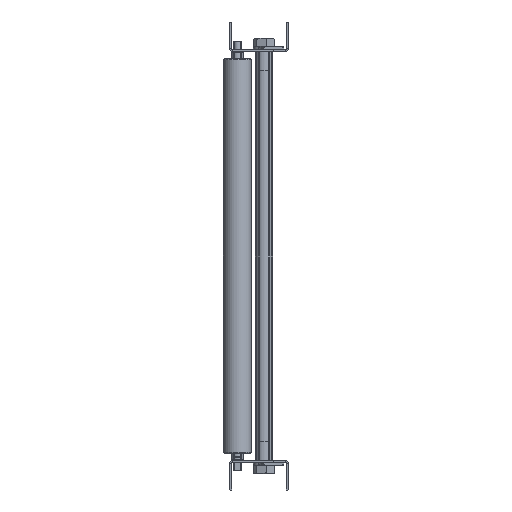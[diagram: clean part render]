
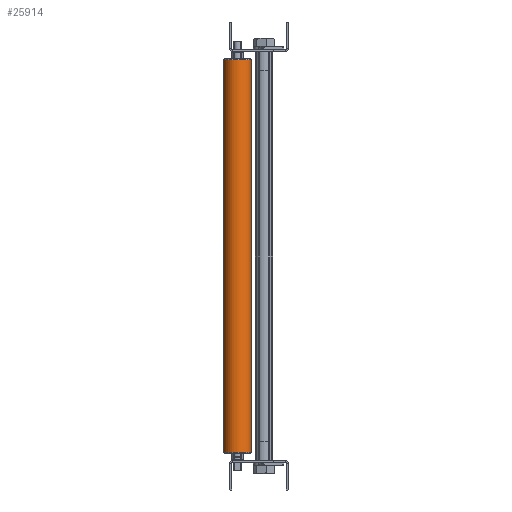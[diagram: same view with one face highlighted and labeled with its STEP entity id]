
A CAD part, left-side view. The second image highlights one B-rep face of the part: STEP entity #25914.
In plain terms, the highlighted cylindrical face has radius 14.3 mm (diameter 28.6 mm), a partial arc.
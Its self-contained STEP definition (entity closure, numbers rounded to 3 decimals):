
#1235 = DIRECTION ( 'NONE',  ( 0.056, 0.998, 0. ) ) ;
#2892 = VERTEX_POINT ( 'NONE', #8479 ) ;
#4130 = AXIS2_PLACEMENT_3D ( 'NONE', #8144, #19751, #16277 ) ;
#4779 = EDGE_CURVE ( 'NONE', #24969, #17084, #5983, .T. ) ;
#5202 = FACE_OUTER_BOUND ( 'NONE', #20678, .T. ) ;
#5983 = CIRCLE ( 'NONE', #4130, 14.3 ) ;
#8144 = CARTESIAN_POINT ( 'NONE',  ( -1939.471, 75.485, -421.5 ) ) ;
#8479 = CARTESIAN_POINT ( 'NONE',  ( -1938.675, 89.763, -23.5 ) ) ;
#8796 = EDGE_CURVE ( 'NONE', #16007, #2892, #17478, .T. ) ;
#9455 = AXIS2_PLACEMENT_3D ( 'NONE', #27723, #21735, #1235 ) ;
#11243 = ORIENTED_EDGE ( 'NONE', *, *, #8796, .T. ) ;
#12978 = EDGE_CURVE ( 'NONE', #2892, #24969, #17457, .T. ) ;
#13738 = ORIENTED_EDGE ( 'NONE', *, *, #36269, .F. ) ;
#16007 = VERTEX_POINT ( 'NONE', #17229 ) ;
#16277 = DIRECTION ( 'NONE',  ( -0.056, -0.998, 0. ) ) ;
#17004 = DIRECTION ( 'NONE',  ( 0., 0., -1. ) ) ;
#17084 = VERTEX_POINT ( 'NONE', #36063 ) ;
#17229 = CARTESIAN_POINT ( 'NONE',  ( -1940.268, 61.207, -23.5 ) ) ;
#17457 = LINE ( 'NONE', #29251, #29523 ) ;
#17478 = CIRCLE ( 'NONE', #9455, 14.3 ) ;
#19321 = CYLINDRICAL_SURFACE ( 'NONE', #24173, 14.3 ) ;
#19651 = CARTESIAN_POINT ( 'NONE',  ( -1938.675, 89.763, -421.5 ) ) ;
#19751 = DIRECTION ( 'NONE',  ( 0., 0., 1. ) ) ;
#20412 = DIRECTION ( 'NONE',  ( 0., 0., -1. ) ) ;
#20544 = DIRECTION ( 'NONE',  ( 0., 0., -1. ) ) ;
#20620 = VECTOR ( 'NONE', #20412, 1000. ) ;
#20678 = EDGE_LOOP ( 'NONE', ( #13738, #11243, #36096, #26851 ) ) ;
#21735 = DIRECTION ( 'NONE',  ( 0., 0., -1. ) ) ;
#24173 = AXIS2_PLACEMENT_3D ( 'NONE', #31130, #17004, #28803 ) ;
#24969 = VERTEX_POINT ( 'NONE', #19651 ) ;
#25914 = ADVANCED_FACE ( 'NONE', ( #5202 ), #19321, .T. ) ;
#26851 = ORIENTED_EDGE ( 'NONE', *, *, #4779, .T. ) ;
#27723 = CARTESIAN_POINT ( 'NONE',  ( -1939.471, 75.485, -23.5 ) ) ;
#28803 = DIRECTION ( 'NONE',  ( 0.056, 0.998, 0. ) ) ;
#29251 = CARTESIAN_POINT ( 'NONE',  ( -1938.675, 89.763, -770.041 ) ) ;
#29523 = VECTOR ( 'NONE', #20544, 1000. ) ;
#31130 = CARTESIAN_POINT ( 'NONE',  ( -1939.471, 75.485, -770.041 ) ) ;
#31843 = LINE ( 'NONE', #34755, #20620 ) ;
#34755 = CARTESIAN_POINT ( 'NONE',  ( -1940.268, 61.207, -770.041 ) ) ;
#36063 = CARTESIAN_POINT ( 'NONE',  ( -1940.268, 61.207, -421.5 ) ) ;
#36096 = ORIENTED_EDGE ( 'NONE', *, *, #12978, .T. ) ;
#36269 = EDGE_CURVE ( 'NONE', #16007, #17084, #31843, .T. ) ;
